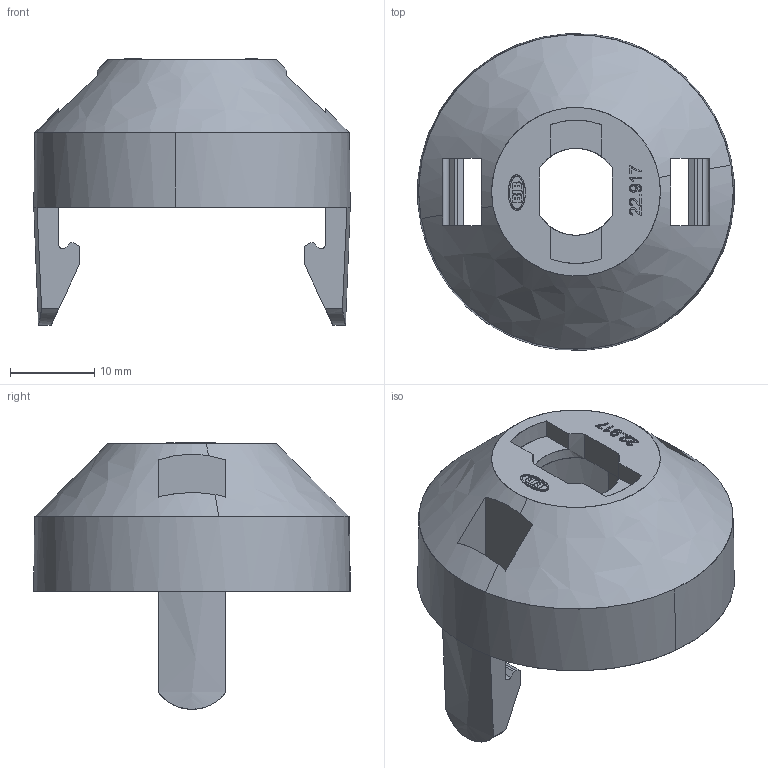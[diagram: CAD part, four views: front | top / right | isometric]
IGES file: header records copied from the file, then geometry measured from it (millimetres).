
Global section: file name: 008YC06Y02.igs; native system: CT CoreTechnologie 3D Evolution; preprocessor: 2.1; date: 050214.082002; units: metre
Bounding box: 37.5 x 37.55 x 31.6 mm (x, y, z)
Surface area: 5855.4 mm2 (no closed solid volume)
Topology: 0 solids, 0 shells, 184 faces, 1004 edges, 1004 vertices
Faces by surface type: bspline 184
